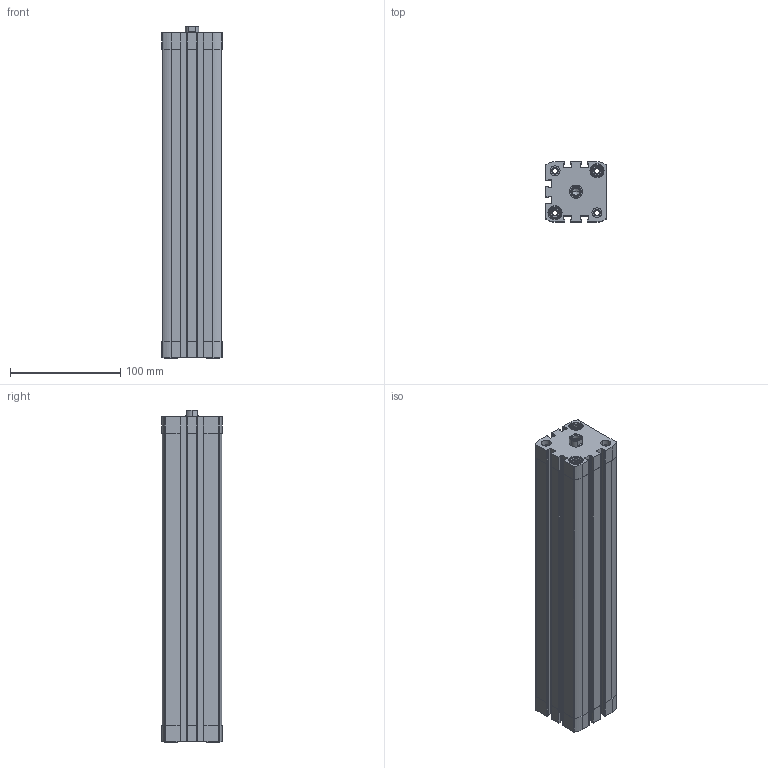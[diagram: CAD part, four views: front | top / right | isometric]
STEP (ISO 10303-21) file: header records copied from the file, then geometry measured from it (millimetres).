
FILE_DESCRIPTION (( 'STEP AP203' ), '1' );
FILE_NAME ('CCN40-250F.STEP', '2017-03-30T11:00:38', ( '' ), ( '' ), 'SwSTEP 2.0', 'SolidWorks 2016', '' );
FILE_SCHEMA (( 'CONFIG_CONTROL_DESIGN' ));
Length unit declared in the file: millimetre
Products named in the file (3): CCN40-250F; CCN-250---(Z); CCN-250_(KS)
Assembly tree (2 placements, depth 2):
  CCN40-250F
    CCN-250---(Z)
    CCN-250_(KS)
Bounding box: 54.5 x 54.5 x 301.1 mm (x, y, z)
Volume: 474545.3 mm3; surface area: 163691.9 mm2
Topology: 2 solids, 2 shells, 479 faces, 1296 edges, 851 vertices
Faces by surface type: plane 267, cylinder 170, cone 42
Entity records: 15569 total; most frequent: CARTESIAN_POINT 2923, DIRECTION 2648, ORIENTED_EDGE 2588, EDGE_CURVE 1294, AXIS2_PLACEMENT_3D 968, VERTEX_POINT 851, VECTOR 712, LINE 712
